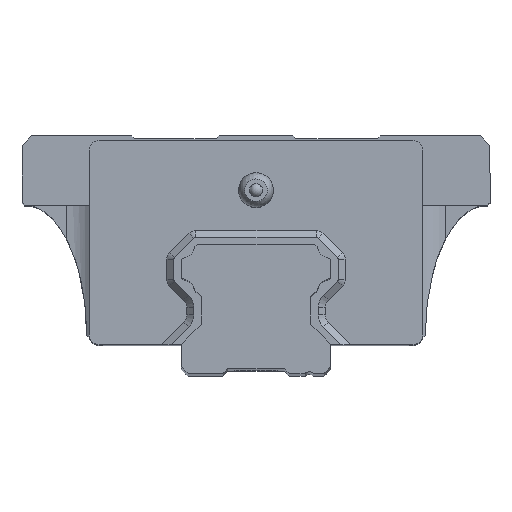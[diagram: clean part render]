
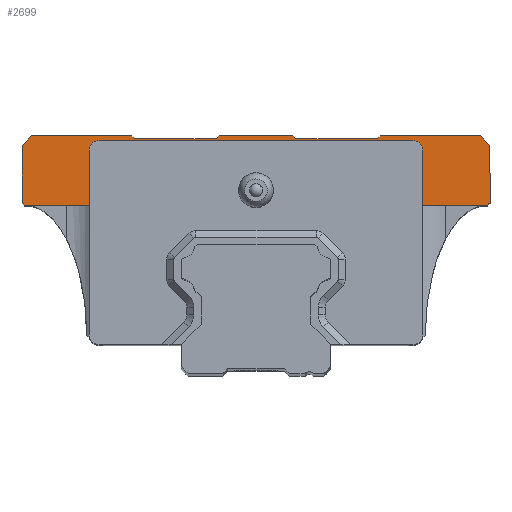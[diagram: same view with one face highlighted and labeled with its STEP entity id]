
A CAD part, top view. The second image highlights one B-rep face of the part: STEP entity #2699.
In plain terms, the highlighted planar face has unit normal (0, 0, 1).
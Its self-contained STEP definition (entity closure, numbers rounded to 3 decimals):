
#2021=CARTESIAN_POINT('',(23.5,6.75,20.4));
#2022=VERTEX_POINT('',#2021);
#2029=CARTESIAN_POINT('',(23.2,6.45,20.4));
#2030=VERTEX_POINT('',#2029);
#2031=CARTESIAN_POINT('',(23.5,6.75,20.4));
#2032=DIRECTION('',(-0.707,-0.707,0.0));
#2033=VECTOR('',#2032,0.424);
#2034=LINE('',#2031,#2033);
#2035=EDGE_CURVE('',#2022,#2030,#2034,.T.);
#2066=CARTESIAN_POINT('',(23.5,12.45,20.4));
#2067=VERTEX_POINT('',#2066);
#2074=CARTESIAN_POINT('',(23.5,6.75,20.4));
#2075=DIRECTION('',(0.0,1.0,0.0));
#2076=VECTOR('',#2075,5.7);
#2077=LINE('',#2074,#2076);
#2078=EDGE_CURVE('',#2022,#2067,#2077,.T.);
#2097=CARTESIAN_POINT('',(22.5,13.45,20.4));
#2098=VERTEX_POINT('',#2097);
#2105=CARTESIAN_POINT('',(23.5,12.45,20.4));
#2106=DIRECTION('',(-0.707,0.707,0.0));
#2107=VECTOR('',#2106,1.414);
#2108=LINE('',#2105,#2107);
#2109=EDGE_CURVE('',#2067,#2098,#2108,.T.);
#2128=CARTESIAN_POINT('',(12.5,13.45,20.4));
#2129=VERTEX_POINT('',#2128);
#2136=CARTESIAN_POINT('',(22.5,13.45,20.4));
#2137=DIRECTION('',(-1.0,0.0,0.0));
#2138=VECTOR('',#2137,10.);
#2139=LINE('',#2136,#2138);
#2140=EDGE_CURVE('',#2098,#2129,#2139,.T.);
#2165=CARTESIAN_POINT('',(12.2,13.15,20.4));
#2166=VERTEX_POINT('',#2165);
#2173=CARTESIAN_POINT('',(12.5,13.45,20.4));
#2174=DIRECTION('',(-0.707,-0.707,0.0));
#2175=VECTOR('',#2174,0.424);
#2176=LINE('',#2173,#2175);
#2177=EDGE_CURVE('',#2129,#2166,#2176,.T.);
#2196=CARTESIAN_POINT('',(4.,13.15,20.4));
#2197=VERTEX_POINT('',#2196);
#2204=CARTESIAN_POINT('',(4.,13.15,20.4));
#2205=DIRECTION('',(1.0,0.0,0.0));
#2206=VECTOR('',#2205,8.2);
#2207=LINE('',#2204,#2206);
#2208=EDGE_CURVE('',#2197,#2166,#2207,.T.);
#2227=CARTESIAN_POINT('',(3.7,13.45,20.4));
#2228=VERTEX_POINT('',#2227);
#2235=CARTESIAN_POINT('',(4.,13.15,20.4));
#2236=DIRECTION('',(-0.707,0.707,0.0));
#2237=VECTOR('',#2236,0.424);
#2238=LINE('',#2235,#2237);
#2239=EDGE_CURVE('',#2197,#2228,#2238,.T.);
#2258=CARTESIAN_POINT('',(-3.7,13.45,20.4));
#2259=VERTEX_POINT('',#2258);
#2266=CARTESIAN_POINT('',(3.7,13.45,20.4));
#2267=DIRECTION('',(-1.0,0.0,0.0));
#2268=VECTOR('',#2267,7.4);
#2269=LINE('',#2266,#2268);
#2270=EDGE_CURVE('',#2228,#2259,#2269,.T.);
#2289=CARTESIAN_POINT('',(-4.,13.15,20.4));
#2290=VERTEX_POINT('',#2289);
#2297=CARTESIAN_POINT('',(-3.7,13.45,20.4));
#2298=DIRECTION('',(-0.707,-0.707,0.0));
#2299=VECTOR('',#2298,0.424);
#2300=LINE('',#2297,#2299);
#2301=EDGE_CURVE('',#2259,#2290,#2300,.T.);
#2320=CARTESIAN_POINT('',(-12.2,13.15,20.4));
#2321=VERTEX_POINT('',#2320);
#2328=CARTESIAN_POINT('',(-12.2,13.15,20.4));
#2329=DIRECTION('',(1.0,0.0,0.0));
#2330=VECTOR('',#2329,8.2);
#2331=LINE('',#2328,#2330);
#2332=EDGE_CURVE('',#2321,#2290,#2331,.T.);
#2351=CARTESIAN_POINT('',(-12.5,13.45,20.4));
#2352=VERTEX_POINT('',#2351);
#2359=CARTESIAN_POINT('',(-12.2,13.15,20.4));
#2360=DIRECTION('',(-0.707,0.707,0.0));
#2361=VECTOR('',#2360,0.424);
#2362=LINE('',#2359,#2361);
#2363=EDGE_CURVE('',#2321,#2352,#2362,.T.);
#2382=CARTESIAN_POINT('',(-22.5,13.45,20.4));
#2383=VERTEX_POINT('',#2382);
#2390=CARTESIAN_POINT('',(-12.5,13.45,20.4));
#2391=DIRECTION('',(-1.0,0.0,0.0));
#2392=VECTOR('',#2391,10.);
#2393=LINE('',#2390,#2392);
#2394=EDGE_CURVE('',#2352,#2383,#2393,.T.);
#2419=CARTESIAN_POINT('',(-23.5,12.45,20.4));
#2420=VERTEX_POINT('',#2419);
#2427=CARTESIAN_POINT('',(-22.5,13.45,20.4));
#2428=DIRECTION('',(-0.707,-0.707,0.0));
#2429=VECTOR('',#2428,1.414);
#2430=LINE('',#2427,#2429);
#2431=EDGE_CURVE('',#2383,#2420,#2430,.T.);
#2450=CARTESIAN_POINT('',(-23.5,6.75,20.4));
#2451=VERTEX_POINT('',#2450);
#2458=CARTESIAN_POINT('',(-23.5,12.45,20.4));
#2459=DIRECTION('',(0.0,-1.0,0.0));
#2460=VECTOR('',#2459,5.7);
#2461=LINE('',#2458,#2460);
#2462=EDGE_CURVE('',#2420,#2451,#2461,.T.);
#2497=CARTESIAN_POINT('',(-23.2,6.45,20.4));
#2498=VERTEX_POINT('',#2497);
#2505=CARTESIAN_POINT('',(-23.2,6.45,20.4));
#2506=DIRECTION('',(-0.707,0.707,0.0));
#2507=VECTOR('',#2506,0.424);
#2508=LINE('',#2505,#2507);
#2509=EDGE_CURVE('',#2498,#2451,#2508,.T.);
#2621=CARTESIAN_POINT('',(-0.166,-31.682,20.4));
#2622=DIRECTION('',(0.0,0.0,1.0));
#2623=DIRECTION('',(1.0,0.0,0.0));
#2624=AXIS2_PLACEMENT_3D('',#2621,#2622,#2623);
#2625=PLANE('',#2624);
#2626=CARTESIAN_POINT('',(16.75,6.45,20.4));
#2627=VERTEX_POINT('',#2626);
#2628=CARTESIAN_POINT('',(16.75,11.95,20.4));
#2629=VERTEX_POINT('',#2628);
#2630=CARTESIAN_POINT('',(16.75,6.45,20.4));
#2631=DIRECTION('',(0.0,1.0,0.0));
#2632=VECTOR('',#2631,5.5);
#2633=LINE('',#2630,#2632);
#2634=EDGE_CURVE('',#2627,#2629,#2633,.T.);
#2635=ORIENTED_EDGE('',*,*,#2634,.F.);
#2636=CARTESIAN_POINT('',(16.75,6.45,20.4));
#2637=DIRECTION('',(1.0,0.0,0.0));
#2638=VECTOR('',#2637,6.45);
#2639=LINE('',#2636,#2638);
#2640=EDGE_CURVE('',#2627,#2030,#2639,.T.);
#2641=ORIENTED_EDGE('',*,*,#2640,.T.);
#2642=ORIENTED_EDGE('',*,*,#2035,.F.);
#2643=ORIENTED_EDGE('',*,*,#2078,.T.);
#2644=ORIENTED_EDGE('',*,*,#2109,.T.);
#2645=ORIENTED_EDGE('',*,*,#2140,.T.);
#2646=ORIENTED_EDGE('',*,*,#2177,.T.);
#2647=ORIENTED_EDGE('',*,*,#2208,.F.);
#2648=ORIENTED_EDGE('',*,*,#2239,.T.);
#2649=ORIENTED_EDGE('',*,*,#2270,.T.);
#2650=ORIENTED_EDGE('',*,*,#2301,.T.);
#2651=ORIENTED_EDGE('',*,*,#2332,.F.);
#2652=ORIENTED_EDGE('',*,*,#2363,.T.);
#2653=ORIENTED_EDGE('',*,*,#2394,.T.);
#2654=ORIENTED_EDGE('',*,*,#2431,.T.);
#2655=ORIENTED_EDGE('',*,*,#2462,.T.);
#2656=ORIENTED_EDGE('',*,*,#2509,.F.);
#2657=CARTESIAN_POINT('',(-16.75,6.45,20.4));
#2658=VERTEX_POINT('',#2657);
#2659=CARTESIAN_POINT('',(-23.2,6.45,20.4));
#2660=DIRECTION('',(1.0,0.0,0.0));
#2661=VECTOR('',#2660,6.45);
#2662=LINE('',#2659,#2661);
#2663=EDGE_CURVE('',#2498,#2658,#2662,.T.);
#2664=ORIENTED_EDGE('',*,*,#2663,.T.);
#2665=CARTESIAN_POINT('',(-16.75,11.95,20.4));
#2666=VERTEX_POINT('',#2665);
#2667=CARTESIAN_POINT('',(-16.75,11.95,20.4));
#2668=DIRECTION('',(0.0,-1.0,0.0));
#2669=VECTOR('',#2668,5.5);
#2670=LINE('',#2667,#2669);
#2671=EDGE_CURVE('',#2666,#2658,#2670,.T.);
#2672=ORIENTED_EDGE('',*,*,#2671,.F.);
#2673=CARTESIAN_POINT('',(-15.75,12.95,20.4));
#2674=VERTEX_POINT('',#2673);
#2675=CARTESIAN_POINT('',(-15.75,11.95,20.4));
#2676=DIRECTION('',(0.0,0.0,1.0));
#2677=DIRECTION('',(1.0,0.0,0.0));
#2678=AXIS2_PLACEMENT_3D('',#2675,#2676,#2677);
#2679=CIRCLE('',#2678,1.);
#2680=EDGE_CURVE('',#2674,#2666,#2679,.T.);
#2681=ORIENTED_EDGE('',*,*,#2680,.F.);
#2682=CARTESIAN_POINT('',(15.75,12.95,20.4));
#2683=VERTEX_POINT('',#2682);
#2684=CARTESIAN_POINT('',(-15.75,12.95,20.4));
#2685=DIRECTION('',(1.0,0.0,0.0));
#2686=VECTOR('',#2685,31.5);
#2687=LINE('',#2684,#2686);
#2688=EDGE_CURVE('',#2674,#2683,#2687,.T.);
#2689=ORIENTED_EDGE('',*,*,#2688,.T.);
#2690=CARTESIAN_POINT('',(15.75,11.95,20.4));
#2691=DIRECTION('',(0.0,0.0,1.0));
#2692=DIRECTION('',(1.0,0.0,0.0));
#2693=AXIS2_PLACEMENT_3D('',#2690,#2691,#2692);
#2694=CIRCLE('',#2693,1.);
#2695=EDGE_CURVE('',#2629,#2683,#2694,.T.);
#2696=ORIENTED_EDGE('',*,*,#2695,.F.);
#2697=EDGE_LOOP('',(#2635,#2641,#2642,#2643,#2644,#2645,#2646,#2647,#2648,#2649,#2650,#2651,#2652,#2653,#2654,#2655,#2656,#2664,#2672,#2681,#2689,#2696));
#2698=FACE_OUTER_BOUND('',#2697,.T.);
#2699=ADVANCED_FACE('',(#2698),#2625,.T.);
